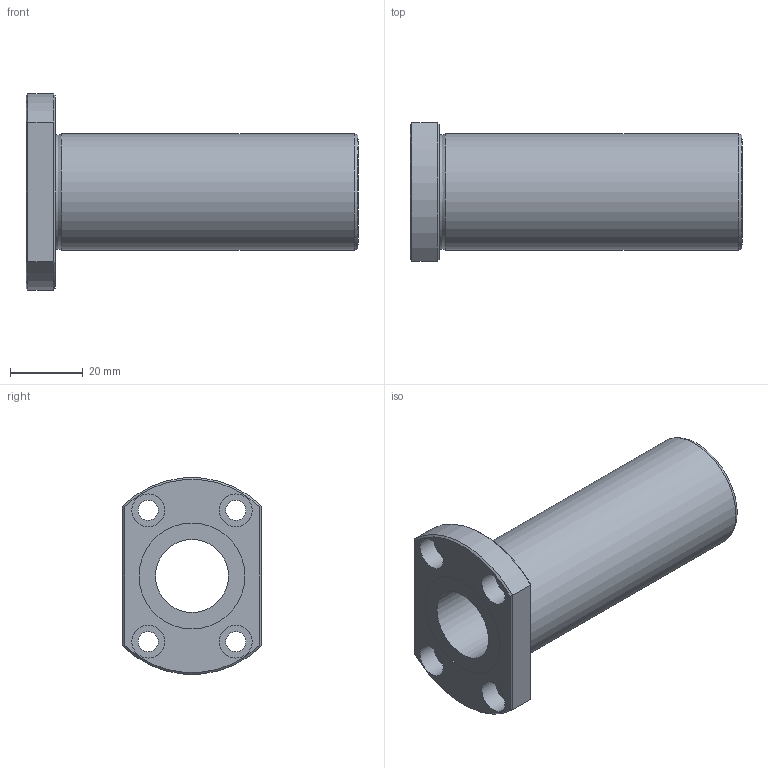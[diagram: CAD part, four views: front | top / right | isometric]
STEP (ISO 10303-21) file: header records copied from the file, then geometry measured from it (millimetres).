
FILE_DESCRIPTION((''),'2;1');
FILE_NAME('D:\製品 (図面)\カタログ用3D\メンテナンスフリー関連\STEP形式\LFDT-MF\LFDT20MF.stp','2010-06-01T15:50:50',('Tsuchiya'),(''),'Autodesk Inventor 10','Autodesk Inventor 10','');
FILE_SCHEMA(('AUTOMOTIVE_DESIGN { 1 0 10303 214 1 1 1 1 }'));
Length unit declared in the file: millimetre
Products named in the file (1): LFDT20MF
Bounding box: 91 x 38 x 53.8 mm (x, y, z)
Volume: 51312.6 mm3; surface area: 18956 mm2
Topology: 1 solids, 1 shells, 35 faces, 68 edges, 42 vertices
Faces by surface type: plane 15, cylinder 14, cone 4, torus 1, bspline 1
Full cylindrical faces by diameter (mm): 5.5 x4, 9 x4, 20 x1, 29 x2, 32 x1
Entity records: 935 total; most frequent: CARTESIAN_POINT 218, DIRECTION 150, ORIENTED_EDGE 108, AXIS2_PLACEMENT_3D 69, EDGE_LOOP 66, EDGE_CURVE 54, VERTEX_POINT 42, FACE_OUTER_BOUND 35
